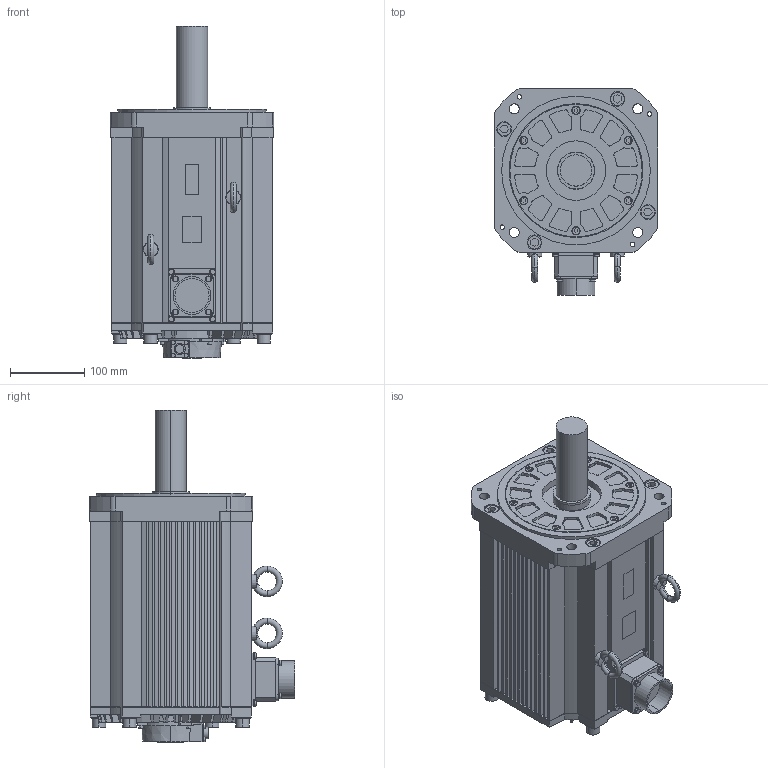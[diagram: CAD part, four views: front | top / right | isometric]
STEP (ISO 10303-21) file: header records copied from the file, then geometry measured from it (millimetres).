
FILE_DESCRIPTION (( 'STEP AP203' ), '1' );
FILE_NAME ('sgmgv_1a__a21.STEP', '2010-08-18T05:30:30', ( '匠エンジニアリング山之内' ), ( 'TAKUMI-Engniaring' ), 'SwSTEP 2.0', 'SolidWorks 2006303', '' );
FILE_SCHEMA (( 'CONFIG_CONTROL_DESIGN' ));
Length unit declared in the file: millimetre
Products named in the file (3): sgmgv_1a__a21_base; sgmgv_1a__a21_eyebolt; sgmgv_1a__a21
Assembly tree (3 placements, depth 2):
  sgmgv_1a__a21
    sgmgv_1a__a21_eyebolt  x2
    sgmgv_1a__a21_base
Bounding box: 220 x 277.08 x 446.6 mm (x, y, z)
Volume: 12222726.1 mm3; surface area: 629297.5 mm2
Topology: 3 solids, 3 shells, 1232 faces, 3119 edges, 2032 vertices
Faces by surface type: plane 768, cylinder 386, cone 70, torus 8
Entity records: 37273 total; most frequent: CARTESIAN_POINT 6991, DIRECTION 6247, ORIENTED_EDGE 6184, EDGE_CURVE 3092, AXIS2_PLACEMENT_3D 2111, LINE 2025, VECTOR 2025, VERTEX_POINT 2016
